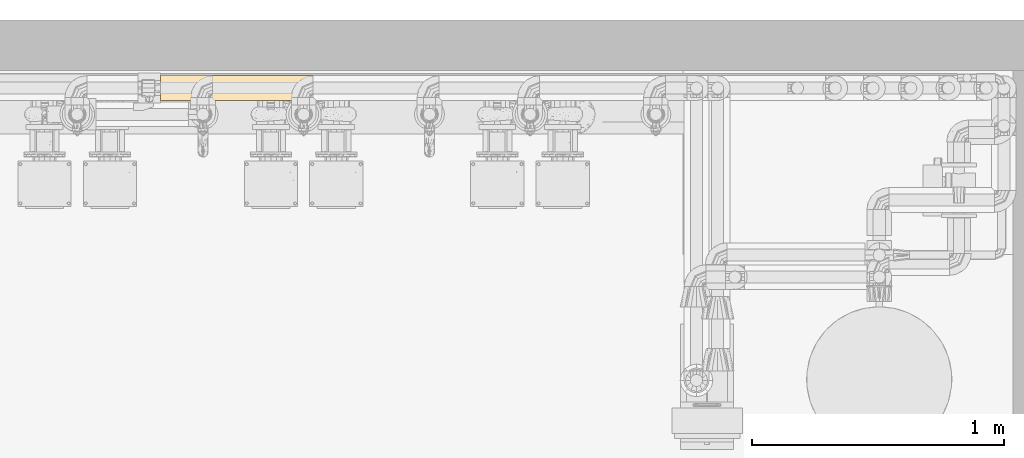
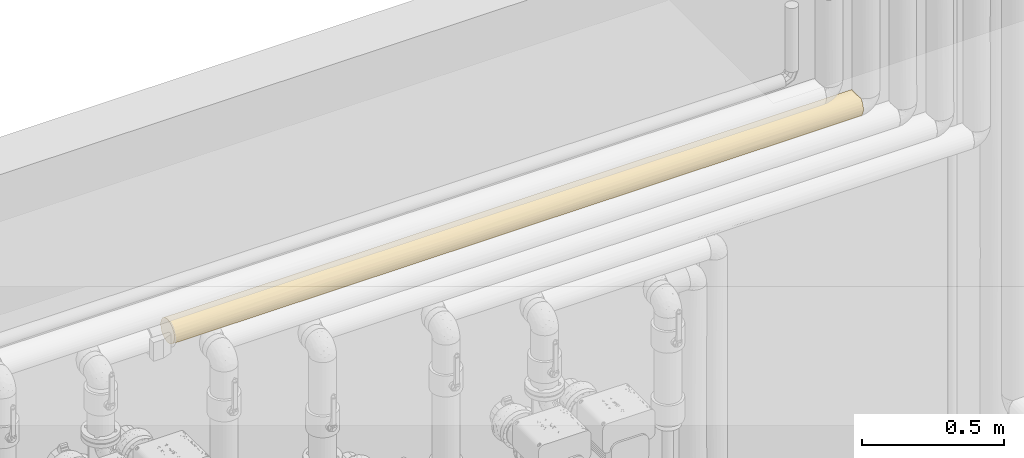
# One storey, part 6 of 94: 1 covering.
"""IFC2X3 building model written with IfcOpenShell, lengths in millimetres."""

from ifc_helpers import new_model, entity, si_unit, converted_unit, derived_unit, direction, frame, origin, place, context, subcontext, project, spatial, faceted_brep, material, element, save


model = new_model("IFC2X3")

# Units and contexts
model_context = context("Model", 3, precision=0.01, world=origin(), true_north=direction((6.123031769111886e-17, 1.0)))
body_context = subcontext(model_context, "Body", "Model", "MODEL_VIEW")
ifc_project = project(units=[si_unit("LENGTHUNIT", "METRE", prefix="MILLI"), si_unit("AREAUNIT", "SQUARE_METRE"), si_unit("VOLUMEUNIT", "CUBIC_METRE"), converted_unit("PLANEANGLEUNIT", "DEGREE", entity("IfcRatioMeasure", 0.017453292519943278), si_unit("PLANEANGLEUNIT", "RADIAN"), dimensions=[0, 0, 0, 0, 0, 0, 0]), si_unit("MASSUNIT", "GRAM", prefix="KILO"), derived_unit("MASSDENSITYUNIT", [(si_unit("MASSUNIT", "GRAM", prefix="KILO"), 1), (si_unit("LENGTHUNIT", "METRE"), -3)]), derived_unit("IONCONCENTRATIONUNIT", [(si_unit("MASSUNIT", "GRAM", prefix="KILO"), 1), (si_unit("LENGTHUNIT", "METRE"), -3)]), derived_unit("MOMENTOFINERTIAUNIT", [(si_unit("LENGTHUNIT", "METRE"), 4)]), si_unit("TIMEUNIT", "SECOND"), si_unit("FREQUENCYUNIT", "HERTZ"), si_unit("THERMODYNAMICTEMPERATUREUNIT", "DEGREE_CELSIUS"), derived_unit("THERMALTRANSMITTANCEUNIT", [(si_unit("MASSUNIT", "GRAM", prefix="KILO"), 1), (si_unit("THERMODYNAMICTEMPERATUREUNIT", "KELVIN"), -1), (si_unit("TIMEUNIT", "SECOND"), -3)]), derived_unit("THERMALCONDUCTANCEUNIT", [(si_unit("MASSUNIT", "GRAM", prefix="KILO"), 1), (si_unit("THERMODYNAMICTEMPERATUREUNIT", "KELVIN"), -1), (si_unit("TIMEUNIT", "SECOND"), -3), (si_unit("LENGTHUNIT", "METRE"), 1)]), derived_unit("VOLUMETRICFLOWRATEUNIT", [(si_unit("LENGTHUNIT", "METRE"), 3), (si_unit("TIMEUNIT", "SECOND"), -1)]), derived_unit("MASSFLOWRATEUNIT", [(si_unit("MASSUNIT", "GRAM", prefix="KILO"), 1), (si_unit("TIMEUNIT", "SECOND"), -1)]), derived_unit("ROTATIONALFREQUENCYUNIT", [(si_unit("TIMEUNIT", "SECOND"), -1)]), si_unit("ELECTRICCURRENTUNIT", "AMPERE"), si_unit("ELECTRICVOLTAGEUNIT", "VOLT"), si_unit("POWERUNIT", "WATT"), si_unit("FORCEUNIT", "NEWTON", prefix="KILO"), si_unit("ILLUMINANCEUNIT", "LUX"), si_unit("LUMINOUSFLUXUNIT", "LUMEN"), si_unit("LUMINOUSINTENSITYUNIT", "CANDELA"), derived_unit("USERDEFINED", [(si_unit("MASSUNIT", "GRAM", prefix="KILO"), -1), (si_unit("LENGTHUNIT", "METRE"), -2), (si_unit("TIMEUNIT", "SECOND"), 3), (si_unit("LUMINOUSFLUXUNIT", "LUMEN"), 1)]), derived_unit("USERDEFINED", [(si_unit("MASSUNIT", "GRAM", prefix="KILO"), 1), (si_unit("TIMEUNIT", "SECOND"), -3), (si_unit("LENGTHUNIT", "METRE"), 3), (si_unit("ELECTRICCURRENTUNIT", "AMPERE"), -2)]), derived_unit("SOUNDPOWERUNIT", [(si_unit("MASSUNIT", "GRAM", prefix="KILO"), 1), (si_unit("TIMEUNIT", "SECOND"), -3), (si_unit("LENGTHUNIT", "METRE"), 2)]), derived_unit("SOUNDPRESSUREUNIT", [(si_unit("MASSUNIT", "GRAM", prefix="KILO"), 1), (si_unit("LENGTHUNIT", "METRE"), -1), (si_unit("TIMEUNIT", "SECOND"), -2)]), derived_unit("LINEARVELOCITYUNIT", [(si_unit("LENGTHUNIT", "METRE"), 1), (si_unit("TIMEUNIT", "SECOND"), -1)]), si_unit("PRESSUREUNIT", "PASCAL"), derived_unit("USERDEFINED", [(si_unit("MASSUNIT", "GRAM", prefix="KILO"), 1), (si_unit("LENGTHUNIT", "METRE"), -2), (si_unit("TIMEUNIT", "SECOND"), -2)]), derived_unit("LINEARFORCEUNIT", [(si_unit("MASSUNIT", "GRAM", prefix="KILO"), 1), (si_unit("TIMEUNIT", "SECOND"), -2)]), derived_unit("PLANARFORCEUNIT", [(si_unit("MASSUNIT", "GRAM", prefix="KILO"), 1), (si_unit("LENGTHUNIT", "METRE"), -1), (si_unit("TIMEUNIT", "SECOND"), -2)]), derived_unit("SPECIFICHEATCAPACITYUNIT", [(si_unit("THERMODYNAMICTEMPERATUREUNIT", "KELVIN"), -1), (si_unit("LENGTHUNIT", "METRE"), 2), (si_unit("TIMEUNIT", "SECOND"), -2)]), derived_unit("HEATINGVALUEUNIT", [(si_unit("LENGTHUNIT", "METRE"), 2), (si_unit("TIMEUNIT", "SECOND"), -2)]), derived_unit("VAPORPERMEABILITYUNIT", [(si_unit("LENGTHUNIT", "METRE"), -1), (si_unit("TIMEUNIT", "SECOND"), 1)]), derived_unit("DYNAMICVISCOSITYUNIT", [(si_unit("MASSUNIT", "GRAM", prefix="KILO"), 1), (si_unit("TIMEUNIT", "SECOND"), -1), (si_unit("LENGTHUNIT", "METRE"), -1)]), derived_unit("THERMALEXPANSIONCOEFFICIENTUNIT", [(si_unit("THERMODYNAMICTEMPERATUREUNIT", "KELVIN"), -1)]), derived_unit("MODULUSOFELASTICITYUNIT", [(si_unit("MASSUNIT", "GRAM", prefix="KILO"), 1), (si_unit("LENGTHUNIT", "METRE"), -1), (si_unit("TIMEUNIT", "SECOND"), -2)]), derived_unit("ISOTHERMALMOISTURECAPACITYUNIT", [(si_unit("LENGTHUNIT", "METRE"), 3), (si_unit("MASSUNIT", "GRAM", prefix="KILO"), -1)]), derived_unit("MOISTUREDIFFUSIVITYUNIT", [(si_unit("TIMEUNIT", "SECOND"), -1), (si_unit("LENGTHUNIT", "METRE"), 2)])], contexts=[model_context])

# Site, building, storey
site_placement = place(None, origin())
site = spatial("IfcSite", under=ifc_project, at=site_placement, Name="Default", CompositionType="ELEMENT")
building_placement = place(site_placement, origin())
building = spatial("IfcBuilding", under=site, at=building_placement, CompositionType="ELEMENT")
storey_placement = place(building_placement, origin())
storey = spatial("IfcBuildingStorey", under=building, at=storey_placement, Name="Niveau 0", CompositionType="ELEMENT", Elevation=0.0)

# Covering
ifc_material = material(Name="Isolation - Laine minérale")
covering_placement = place(storey_placement, frame((-9140.887025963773, 9976.120352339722, 2800.7252722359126)))
element("IfcCovering", 1, at=covering_placement, inside=storey, material=ifc_material, Name="Isolation des canalisations:Laine minérale", ObjectType="Isolation des canalisations:Laine minérale", PredefinedType="INSULATION", context=body_context, shape_type="Brep", body=[
    faceted_brep([(0.0, 3.2693363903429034, -63.44105192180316), (0.0, 1.5952722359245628, -50.72527223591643), (0.0, 3.2693363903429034, -38.00949255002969), (0.0, 8.177444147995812, -26.160272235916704), (0.0, 15.985116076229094, -15.985116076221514), (0.0, 26.16027223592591, -8.17744414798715), (0.0, 38.0094925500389, -3.269336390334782), (0.0, 50.72527223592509, -1.5952722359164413), (0.0, 63.44105192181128, -3.269336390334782), (0.0, 75.29027223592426, -8.17744414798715), (0.0, 85.46542839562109, -15.985116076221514), (0.0, 93.27310032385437, -26.160272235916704), (0.0, 98.18120808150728, -38.00949255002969), (0.0, 99.85527223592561, -50.72527223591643), (0.0, 98.18120808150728, -63.44105192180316), (0.0, 93.27310032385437, -75.29027223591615), (0.0, 85.46542839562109, -85.46542839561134), (0.0, 75.29027223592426, -93.2731003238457), (0.0, 63.44105192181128, -98.18120808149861), (0.0, 50.72527223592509, -99.85527223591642), (0.0, 38.0094925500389, -98.18120808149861), (0.0, 26.16027223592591, -93.2731003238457), (0.0, 15.985116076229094, -85.46542839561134), (0.0, 8.177444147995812, -75.29027223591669), (2793.7147128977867, 2.7935963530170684, -39.94049838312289), (2793.7147128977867, 1.5952722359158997, -50.725272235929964), (2793.7147128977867, 3.26933639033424, -63.441051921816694), (2793.7147128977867, 8.17744414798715, -75.29027223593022), (2793.7147128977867, 15.98511607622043, -85.46542839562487), (2793.7147128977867, 26.160272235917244, -93.27310032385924), (2793.7147128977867, 38.00949255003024, -98.18120808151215), (2793.7147128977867, 50.72527223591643, -99.85527223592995), (2793.7147128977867, 63.44105192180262, -98.18120808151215), (2793.7147128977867, 75.29027223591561, -93.27310032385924), (2793.7147128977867, 85.46542839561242, -85.46542839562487), (2793.7147128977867, 93.2731003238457, -75.29027223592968), (2793.7147128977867, 98.18120808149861, -63.441051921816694), (2793.7147128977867, 99.85527223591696, -50.725272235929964), (2793.7147128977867, 98.65694811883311, -39.94049838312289), (2793.7147128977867, 95.12737949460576, -29.696487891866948), (2793.7147128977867, 89.4379998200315, -20.474956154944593), (2793.7147128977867, 81.86619226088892, -12.72527223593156), (2793.7147128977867, 19.58435221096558, -12.725272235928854), (2793.7147128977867, 12.012544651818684, -20.47495615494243), (2793.7147128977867, 6.3231649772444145, -29.696487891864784), (2503.374787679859, 59.134206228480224, -99.13030016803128), (2375.8307265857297, 50.72527223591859, -99.85527223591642), (2304.228244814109, 50.72527223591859, -99.85527223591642), (425.8679876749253, 98.75077891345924, -61.084210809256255), (587.971454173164, 96.11547354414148, -69.52650956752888), (263.76452444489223, 96.11547360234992, -69.52650942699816), (1987.4939845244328, 80.35863350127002, -89.91227008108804), (1868.607524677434, 89.70272176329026, -80.63372134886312), (2164.414401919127, 91.25887828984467, -78.48826343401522), (1080.511420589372, 63.71943527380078, -98.10573895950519), (1447.62641240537, 60.250149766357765, -98.92313119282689), (1325.2545782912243, 50.725272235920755, -99.85527223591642), (384.6493274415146, 89.70272175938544, -80.6337213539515), (2460.221278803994, 89.7027218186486, -80.6337212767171), (2567.7862630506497, 96.11547366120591, -69.52650928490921), (417.8840408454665, 99.85527223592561, -50.72527223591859), (330.91221914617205, 80.6337211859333, -89.70272188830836), (2159.021214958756, 69.52650917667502, -96.11547370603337), (2212.2996664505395, 60.143988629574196, -98.94398936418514), (1858.2790436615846, 62.91400256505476, -98.31930288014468), (2504.364474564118, 69.52650922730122, -96.11547368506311), (928.1462670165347, 80.63372113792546, -89.70272192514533), (629.5292427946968, 78.26170363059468, -91.41313094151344), (800.4368289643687, 90.09629995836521, -80.11368961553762), (2392.3784325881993, 80.63372119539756, -89.7027218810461), (822.4784250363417, 68.78717981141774, -96.4147064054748), (649.6847191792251, 59.771171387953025, -99.01531891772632), (521.5076253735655, 69.5265092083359, -96.11547369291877), (333.06105018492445, 61.14621434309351, -98.73736306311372), (231.77085494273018, 69.96938003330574, -95.92948902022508), (2304.2280550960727, 99.85527223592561, -50.72527223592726), (2498.968470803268, 99.0965167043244, -59.32641219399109), (2215.6700630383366, 98.99700847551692, -59.86837785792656), (735.393812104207, 98.8414218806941, -60.654675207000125), (1087.4682835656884, 73.27611677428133, -94.37405584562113), (1080.511425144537, 99.13125924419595, -59.12868355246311), (1569.9980789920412, 98.89899957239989, -60.371457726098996), (1292.1838730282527, 96.47873404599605, -68.62436809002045), (1645.6901443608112, 94.98007130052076, -72.06232122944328), (1947.1855768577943, 98.31620290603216, -62.92610081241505), (1940.6134592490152, 94.83948991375, -72.35147621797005), (1325.2547394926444, 99.85527223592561, -50.72527223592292), (835.7680816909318, 99.85527223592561, -50.725272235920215), (1254.8506129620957, 88.57480314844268, -82.04890404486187), (2273.537948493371, 96.1154736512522, -69.5265093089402), (1814.7414115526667, 50.72527223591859, -99.85527223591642), (1569.9981775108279, 50.725272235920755, -99.85527223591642), (1585.2669650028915, 82.70482062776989, -88.02226118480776), (1262.6155734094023, 80.34701073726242, -89.92105655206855), (941.2634774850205, 95.9166886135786, -69.99942035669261), (1565.72906003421, 89.77374362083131, -80.54093561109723), (1876.8349252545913, 72.37411561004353, -94.8283841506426), (1957.9467402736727, 50.72527223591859, -99.85527223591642), (1468.4600552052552, 50.725272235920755, -99.85527223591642), (1223.71687830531, 50.72527223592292, -99.85527223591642), (978.9733701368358, 50.72527223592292, -99.85527223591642), (835.7681102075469, 50.72527223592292, -99.85527223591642), (1491.5797010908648, 70.11560118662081, -95.86696076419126), (1814.741397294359, 99.85527223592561, -50.72527223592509), (489.48668506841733, 50.72527223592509, -99.85527223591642), (417.8842376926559, 50.72527223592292, -99.85527223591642), (2460.221277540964, 20.816823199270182, -89.70272182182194), (2392.3784313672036, 11.747822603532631, -80.63372121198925), (928.1462641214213, 11.747822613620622, -80.63372122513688), (1076.5368883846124, 7.029767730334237, -73.18545447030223), (818.9377512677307, 4.899311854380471, -68.43793028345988), (2162.8948628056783, 23.22817943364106, -91.43972651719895), (1987.0126110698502, 11.544405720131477, -80.36673979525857), (1865.568447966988, 20.816823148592, -89.70272178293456), (1991.3489533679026, 34.660647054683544, -97.15462413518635), (2211.3784991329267, 41.831991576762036, -99.04365858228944), (2272.207087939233, 31.924035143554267, -96.11547364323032), (2504.3644737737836, 5.335070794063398, -69.52650924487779), (289.350240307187, 31.924035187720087, -96.11547366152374), (2304.227025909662, 1.5952722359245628, -50.7252722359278), (2503.37478707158, 2.3202443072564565, -59.1342062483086), (636.8465422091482, 2.3910092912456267, -59.531856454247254), (521.507624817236, 5.33507079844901, -69.52650925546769), (317.62481311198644, 2.758153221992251, -61.35129658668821), (235.2140135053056, 5.649322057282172, -70.26793365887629), (290.3399269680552, 42.316338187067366, -99.13030015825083), (634.6935019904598, 31.924035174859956, -96.11547365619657), (581.4150508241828, 41.3065557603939, -98.94398934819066), (935.4356769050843, 38.53654173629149, -98.31930283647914), (630.8198500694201, 10.01081788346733, -78.22236493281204), (806.7021034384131, 21.08380459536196, -89.90613869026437), (333.4934361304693, 11.747822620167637, -80.6337212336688), (401.33628268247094, 20.816823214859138, -89.70272183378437), (2212.2996646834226, 2.506555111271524, -60.143988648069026), (1080.5114215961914, 3.3448055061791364, -63.71943525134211), (1447.6264127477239, 2.527413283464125, -60.25014978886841), (1325.2553733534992, 1.5952722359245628, -50.72527223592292), (2512.630634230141, 41.619394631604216, -99.00404493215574), (2563.344294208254, 32.246177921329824, -96.24757416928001), (1713.2032956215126, 37.731109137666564, -98.10573894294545), (1346.0883042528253, 41.200394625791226, -98.92313117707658), (2159.0212133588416, 5.335070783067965, -69.52650921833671), (1858.2790403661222, 3.1312416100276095, -62.91400263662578), (1767.632069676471, 28.68479355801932, -94.63397524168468), (1232.420015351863, 18.98387887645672, -88.22515020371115), (1814.7411996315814, 1.5952722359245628, -50.72527223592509), (1569.9982864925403, 1.5952722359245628, -50.725272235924), (1578.229413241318, 13.342815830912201, -82.6048715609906), (1260.144748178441, 11.261507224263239, -79.98904080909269), (916.9203904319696, 29.07460026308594, -94.82748650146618), (1302.1350170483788, 31.33494321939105, -95.8669607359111), (1534.2129281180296, 23.624065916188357, -91.70430975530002), (1876.7943258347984, 6.623057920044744, -72.37594410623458), (835.7695470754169, 1.5952722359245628, -50.725272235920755), (1491.5796982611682, 5.583583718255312, -70.11560121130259), (417.88384318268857, 1.5952722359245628, -50.72527223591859), (2537.7767629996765, 22.818639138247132, -10.290426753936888), (2320.245469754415, 30.080678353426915, -6.143239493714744), (2258.2597417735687, 21.753973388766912, -11.04630119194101), (384.6493284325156, 11.747822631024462, -20.816823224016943), (227.00849659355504, 31.924035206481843, -5.335070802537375), (2154.1290353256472, 41.87732778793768, -2.3985634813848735), (1803.61216979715, 50.72527223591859, -1.5952722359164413), (1914.7408082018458, 36.14173925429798, -3.809630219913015), (1111.7368517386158, 2.4932134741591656, -41.37511675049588), (1569.9980757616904, 2.493213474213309, -41.37511675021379), (1724.4973872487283, 8.28574556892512, -25.973636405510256), (1325.2547480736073, 5.154214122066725, -32.366743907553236), (2505.7692549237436, 8.912806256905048, -24.92847807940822), (2173.652634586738, 8.912856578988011, -24.92839651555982), (2422.4245697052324, 4.275118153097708, -34.72089515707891), (2422.4259206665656, 15.58416496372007, -16.39074908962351), (229.53344870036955, 2.1233223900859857, -43.54144517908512), (503.50768735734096, 2.5381309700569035, -41.14632048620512), (1106.209627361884, 28.280609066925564, -7.021794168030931), (1069.3814225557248, 37.75502401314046, -3.3382533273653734), (827.2957691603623, 31.761800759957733, -5.402610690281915), (2788.9545217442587, 26.531823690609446, -7.9650810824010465), (2785.450812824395, 34.19020495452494, -4.4613721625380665), (1911.5106411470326, 22.480990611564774, -10.525552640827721), (2096.8687773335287, 15.539411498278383, -16.436613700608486), (412.319813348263, 50.72527223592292, -1.5952722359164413), (374.5476982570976, 40.53954009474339, -2.6627321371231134), (696.23991197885, 40.731343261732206, -2.6224835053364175), (330.9122191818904, 20.816823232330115, -11.747822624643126), (1558.8680770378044, 40.7683135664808, -2.61481730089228), (1406.8738641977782, 28.03375882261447, -7.149451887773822), (1325.2539670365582, 13.803241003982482, -18.31353809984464), (1609.1200987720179, 21.451250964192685, -11.26911202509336), (1340.3983839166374, 20.505872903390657, -11.988406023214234), (284.08107789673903, 4.552023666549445, -33.93872951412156), (957.1811069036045, 5.639274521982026, -31.20580220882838), (2782.584712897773, 50.72527223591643, -1.5952722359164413), (2293.0984413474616, 50.72527223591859, -1.5952722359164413), (2446.1171887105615, 40.35749234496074, -2.701673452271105), (2783.3065404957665, 42.33445912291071, -2.3170998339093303), (1993.0367072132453, 3.464931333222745, -37.30077679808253), (1090.299261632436, 9.996571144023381, -23.249286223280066), (800.6636506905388, 11.356740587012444, -21.3335112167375), (587.9714521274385, 5.335070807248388, -31.92403519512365), (797.0418208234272, 2.763764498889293, -40.0739495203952), (630.1902020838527, 23.174697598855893, -10.046988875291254), (522.086899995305, 31.924035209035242, -5.335070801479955), (1770.6231052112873, 14.880955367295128, -17.125542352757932), (929.4681850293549, 20.816823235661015, -11.747822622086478), (1698.2093449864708, 29.71078633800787, -6.316396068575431), (1314.1221586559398, 50.725272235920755, -1.5952722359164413), (824.6358871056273, 50.72527223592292, -1.5952722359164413), (2501.616449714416, 92.53773807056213, -24.928477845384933), (2422.425920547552, 85.86637952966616, -16.39074911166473), (2788.9545217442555, 74.91872078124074, -7.9650810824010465), (2320.245469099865, 71.36986615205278, -6.143239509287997), (2785.450812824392, 67.2603395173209, -4.461372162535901), (957.1811082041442, 95.81126995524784, -31.20580222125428), (1111.7368557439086, 98.95733099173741, -41.37511671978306), (797.0418260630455, 98.68677998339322, -40.073949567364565), (2783.3065404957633, 59.116085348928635, -2.3170998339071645), (2446.117188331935, 61.09305214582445, -2.7016734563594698), (1609.1200916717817, 79.99929352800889, -11.269112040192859), (1911.5106398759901, 78.96955391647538, -10.525552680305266), (1770.623104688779, 86.56958917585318, -17.125542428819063), (2422.4245696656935, 97.17542632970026, -34.720895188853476), (2173.652634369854, 92.537687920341, -24.928396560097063), (284.08107996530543, 96.89852087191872, -33.93872969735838), (503.5076930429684, 98.91241351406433, -41.14632054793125), (229.53345225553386, 99.32722206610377, -43.54144507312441), (374.54769818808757, 60.911004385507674, -2.6627321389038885), (522.0868998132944, 69.52650927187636, -5.335070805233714), (227.0084965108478, 69.52650926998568, -5.33507080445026), (630.1902017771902, 78.2758468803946, -10.046988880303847), (800.6636501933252, 90.09380388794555, -21.3335112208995), (384.6493285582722, 89.70272184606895, -20.81682323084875), (1624.599478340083, 98.6154704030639, -39.75778302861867), (1372.238074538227, 99.0755424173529, -42.00699985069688), (1325.2547503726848, 96.29633031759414, -32.36674382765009), (587.971452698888, 96.11547366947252, -31.924035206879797), (330.9122190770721, 80.63372124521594, -11.747822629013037), (1993.0367082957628, 97.98561315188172, -37.30077684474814), (1914.7408070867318, 65.30880526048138, -3.8096302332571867), (2258.259741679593, 79.69657111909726, -11.046301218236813), (2537.776762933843, 78.63190535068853, -10.29042676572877), (1724.4973900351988, 93.16479897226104, -25.97363652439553), (2154.1290345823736, 59.5732167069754, -2.398563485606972), (1558.8680766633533, 60.68223091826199, -2.6148173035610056), (2096.8687770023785, 85.91113300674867, -16.43661373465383), (1069.3814221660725, 63.69552028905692, -3.3382532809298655), (696.2399117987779, 60.7192012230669, -2.622483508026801), (1325.2539735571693, 87.64730334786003, -18.313537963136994), (1340.3983713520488, 80.94467128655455, -11.988405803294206), (1406.8738630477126, 73.41678529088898, -7.149451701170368), (827.2957711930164, 69.68874377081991, -5.402610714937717), (1090.2992654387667, 91.45397327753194, -23.24928614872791), (929.4681844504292, 80.63372124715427, -11.747822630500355), (1698.2093463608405, 71.73975824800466, -6.316396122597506), (1106.2096298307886, 73.16993512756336, -7.021794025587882)], [[[0, 1, 2, 3, 4, 5, 6, 7, 8, 9, 10, 11, 12, 13, 14, 15, 16, 17, 18, 19, 20, 21, 22, 23]], [[24, 25, 26, 27, 28, 29, 30, 31, 32, 33, 34, 35, 36, 37, 38, 39, 40, 41, 42, 43, 44]], [[45, 31, 46, 47]], [[48, 49, 50]], [[51, 52, 53]], [[54, 55, 56]], [[57, 15, 50]], [[35, 34, 58]], [[35, 59, 36]], [[13, 60, 48]], [[16, 57, 61]], [[62, 63, 64]], [[65, 45, 63]], [[66, 67, 68]], [[16, 61, 17]], [[33, 32, 65]], [[33, 65, 69]], [[70, 71, 72]], [[72, 73, 74]], [[50, 15, 14]], [[15, 57, 16]], [[75, 76, 77]], [[69, 58, 34]], [[49, 48, 78]], [[66, 79, 70]], [[80, 81, 82]], [[73, 72, 71]], [[33, 69, 34]], [[83, 84, 85]], [[36, 59, 76]], [[51, 69, 62]], [[65, 63, 62]], [[52, 85, 53]], [[86, 80, 87]], [[60, 78, 48]], [[68, 88, 66]], [[68, 57, 49]], [[61, 67, 72]], [[69, 51, 53]], [[18, 73, 19]], [[36, 76, 37]], [[59, 58, 89]], [[64, 90, 91]], [[88, 92, 93]], [[57, 68, 67]], [[74, 61, 72]], [[78, 94, 49]], [[68, 94, 88]], [[95, 82, 83]], [[52, 51, 92]], [[45, 65, 32]], [[69, 65, 62]], [[96, 62, 64]], [[95, 83, 52]], [[96, 92, 51]], [[88, 93, 66]], [[31, 45, 32]], [[45, 47, 63]], [[63, 47, 97, 90]], [[64, 63, 90]], [[55, 91, 98, 56]], [[62, 96, 51]], [[71, 70, 54]], [[54, 56, 99, 100, 101]], [[93, 79, 66]], [[55, 54, 102]], [[91, 55, 64]], [[64, 55, 102]], [[14, 13, 48]], [[57, 50, 49]], [[14, 48, 50]], [[78, 60, 87]], [[87, 80, 78]], [[78, 80, 94]], [[88, 94, 82]], [[81, 86, 103]], [[68, 49, 94]], [[81, 80, 86]], [[94, 80, 82]], [[84, 81, 103]], [[83, 82, 81]], [[77, 103, 75]], [[83, 85, 52]], [[84, 83, 81]], [[52, 92, 95]], [[92, 88, 95]], [[82, 95, 88]], [[92, 102, 93]], [[79, 102, 54]], [[102, 79, 93]], [[70, 79, 54]], [[71, 54, 101]], [[70, 72, 67]], [[71, 101, 104, 105]], [[73, 71, 105]], [[19, 73, 105]], [[74, 18, 17]], [[18, 74, 73]], [[61, 74, 17]], [[64, 102, 96]], [[92, 96, 102]], [[84, 89, 85]], [[53, 89, 58]], [[89, 53, 85]], [[53, 58, 69]], [[58, 59, 35]], [[84, 77, 89]], [[89, 76, 59]], [[37, 76, 75]], [[89, 77, 76]], [[103, 77, 84]], [[67, 61, 57]], [[70, 67, 66]], [[106, 28, 107]], [[108, 109, 110]], [[27, 107, 28]], [[111, 112, 113]], [[28, 106, 29]], [[114, 115, 116]], [[27, 26, 117]], [[21, 20, 118]], [[25, 119, 120]], [[110, 121, 122]], [[123, 124, 122]], [[122, 121, 123]], [[125, 19, 105, 104]], [[126, 127, 128]], [[108, 129, 130]], [[131, 22, 132]], [[117, 120, 133]], [[118, 125, 127]], [[134, 135, 136]], [[137, 138, 116]], [[132, 21, 118]], [[139, 140, 98]], [[27, 117, 107]], [[21, 132, 22]], [[141, 133, 142]], [[22, 131, 23]], [[143, 114, 111]], [[116, 115, 137]], [[130, 132, 126]], [[118, 127, 126]], [[131, 129, 122]], [[112, 107, 141]], [[117, 133, 141]], [[106, 111, 116]], [[132, 130, 129]], [[0, 123, 1]], [[30, 137, 31]], [[124, 131, 122]], [[107, 112, 111]], [[138, 106, 116]], [[128, 100, 99]], [[130, 144, 108]], [[142, 145, 146]], [[144, 147, 148]], [[125, 118, 20]], [[132, 118, 126]], [[120, 117, 26]], [[107, 117, 141]], [[149, 126, 128]], [[130, 149, 144]], [[150, 151, 144]], [[113, 112, 147]], [[152, 141, 142]], [[147, 144, 151]], [[152, 147, 112]], [[144, 148, 108]], [[19, 125, 20]], [[125, 104, 127]], [[25, 120, 26]], [[120, 119, 133]], [[127, 104, 101, 100]], [[128, 127, 100]], [[140, 99, 56, 98]], [[126, 149, 130]], [[115, 97, 47, 46]], [[139, 98, 91, 90, 97]], [[151, 143, 113]], [[119, 145, 133]], [[142, 133, 145]], [[135, 146, 136]], [[141, 152, 112]], [[121, 110, 134]], [[134, 136, 153]], [[148, 109, 108]], [[140, 139, 150]], [[99, 140, 128]], [[128, 140, 150]], [[135, 134, 154]], [[146, 135, 142]], [[142, 135, 154]], [[128, 150, 149]], [[144, 149, 150]], [[142, 154, 152]], [[147, 152, 154]], [[143, 150, 139]], [[147, 151, 113]], [[150, 143, 151]], [[114, 143, 139]], [[97, 114, 139]], [[114, 116, 111]], [[97, 115, 114]], [[137, 115, 46]], [[31, 137, 46]], [[137, 30, 138]], [[30, 29, 138]], [[106, 138, 29]], [[147, 154, 148]], [[109, 154, 134]], [[154, 109, 148]], [[110, 109, 134]], [[121, 134, 153]], [[110, 122, 129]], [[153, 155, 121]], [[0, 23, 124]], [[121, 155, 123]], [[1, 123, 155]], [[0, 124, 123]], [[131, 124, 23]], [[129, 131, 132]], [[110, 129, 108]], [[111, 106, 107]], [[111, 113, 143]], [[156, 157, 158]], [[3, 159, 4]], [[6, 5, 160]], [[161, 162, 163]], [[164, 153, 136, 146, 145, 165]], [[166, 167, 165]], [[168, 169, 170]], [[171, 43, 42]], [[43, 171, 168]], [[172, 1, 155]], [[155, 173, 172]], [[174, 175, 176]], [[157, 177, 178]], [[44, 168, 170]], [[163, 179, 157]], [[180, 169, 171]], [[181, 182, 183]], [[170, 24, 44]], [[5, 4, 184]], [[185, 175, 186]], [[187, 188, 189]], [[2, 172, 190]], [[166, 187, 167]], [[164, 167, 191]], [[159, 184, 4]], [[192, 193, 194]], [[119, 25, 24]], [[192, 194, 195]], [[194, 178, 195]], [[190, 159, 3]], [[170, 196, 119]], [[160, 182, 6]], [[156, 42, 177]], [[158, 179, 180]], [[170, 169, 196]], [[119, 24, 170]], [[145, 119, 196]], [[197, 198, 191]], [[198, 159, 199]], [[173, 153, 200]], [[184, 201, 202]], [[166, 196, 169]], [[6, 182, 7]], [[165, 196, 166]], [[203, 169, 180]], [[187, 203, 188]], [[166, 169, 203]], [[201, 198, 204]], [[186, 188, 205]], [[206, 185, 162]], [[159, 198, 201]], [[160, 184, 202]], [[191, 198, 199]], [[204, 198, 197]], [[157, 194, 161]], [[162, 185, 163]], [[183, 207, 181]], [[175, 206, 207]], [[175, 183, 176]], [[164, 200, 153]], [[197, 167, 187]], [[145, 196, 165]], [[167, 164, 165]], [[200, 164, 191]], [[191, 199, 200]], [[173, 200, 199]], [[173, 199, 190]], [[153, 173, 155]], [[159, 190, 199]], [[3, 2, 190]], [[190, 172, 173]], [[1, 172, 2]], [[175, 185, 206]], [[205, 185, 186]], [[43, 168, 44]], [[169, 168, 171]], [[158, 180, 171]], [[180, 179, 203]], [[188, 203, 179]], [[187, 166, 203]], [[205, 179, 163]], [[188, 186, 189]], [[179, 205, 188]], [[185, 205, 163]], [[171, 42, 156]], [[179, 158, 157]], [[157, 156, 177]], [[171, 156, 158]], [[174, 189, 186]], [[204, 187, 189]], [[167, 197, 191]], [[204, 197, 187]], [[161, 194, 193]], [[178, 194, 157]], [[162, 161, 193]], [[157, 161, 163]], [[184, 160, 5]], [[182, 160, 202]], [[182, 202, 183]], [[182, 181, 7]], [[176, 183, 202]], [[175, 207, 183]], [[201, 176, 202]], [[175, 174, 186]], [[176, 204, 174]], [[189, 174, 204]], [[201, 184, 159]], [[176, 201, 204]], [[39, 208, 40]], [[209, 41, 40]], [[210, 211, 212]], [[213, 214, 215]], [[216, 217, 192]], [[218, 219, 220]], [[39, 38, 221]], [[209, 208, 222]], [[223, 224, 225]], [[226, 227, 228]], [[7, 181, 226]], [[221, 222, 208]], [[229, 230, 231]], [[232, 233, 234]], [[215, 224, 235]], [[217, 193, 192]], [[10, 236, 231]], [[221, 237, 222]], [[238, 211, 219]], [[223, 235, 224]], [[75, 237, 221]], [[228, 9, 8]], [[239, 240, 209]], [[217, 212, 211]], [[235, 223, 231]], [[237, 241, 222]], [[242, 193, 217]], [[243, 206, 162]], [[231, 11, 10]], [[239, 209, 244]], [[38, 37, 75]], [[245, 207, 206]], [[244, 209, 222]], [[240, 210, 41]], [[38, 75, 221]], [[237, 75, 103]], [[230, 235, 231]], [[244, 220, 219]], [[10, 9, 236]], [[12, 225, 13]], [[236, 229, 231]], [[103, 232, 237]], [[181, 246, 226]], [[237, 232, 241]], [[247, 241, 234]], [[220, 244, 222]], [[230, 213, 235]], [[248, 249, 218]], [[227, 246, 250]], [[206, 243, 245]], [[228, 236, 9]], [[229, 236, 227]], [[247, 251, 252]], [[251, 234, 213]], [[219, 218, 253]], [[242, 162, 193]], [[245, 254, 250]], [[238, 243, 162]], [[226, 246, 227]], [[251, 213, 230]], [[86, 214, 233]], [[86, 87, 214]], [[213, 234, 214]], [[215, 214, 87]], [[224, 87, 60]], [[235, 213, 215]], [[87, 224, 215]], [[225, 224, 60]], [[12, 11, 223]], [[231, 223, 11]], [[13, 225, 60]], [[223, 225, 12]], [[86, 232, 103]], [[241, 232, 234]], [[253, 243, 238]], [[245, 243, 249]], [[40, 208, 209]], [[39, 221, 208]], [[220, 222, 241]], [[239, 219, 211]], [[241, 247, 220]], [[247, 248, 218]], [[247, 218, 220]], [[253, 218, 249]], [[243, 253, 249]], [[219, 253, 238]], [[219, 239, 244]], [[240, 211, 210]], [[209, 240, 41]], [[211, 240, 239]], [[247, 252, 248]], [[254, 248, 252]], [[252, 251, 230]], [[234, 251, 247]], [[212, 217, 216]], [[242, 211, 238]], [[211, 242, 217]], [[162, 242, 238]], [[8, 7, 226]], [[236, 228, 227]], [[8, 226, 228]], [[246, 181, 207]], [[207, 245, 246]], [[250, 246, 245]], [[254, 245, 249]], [[229, 250, 252]], [[248, 254, 249]], [[252, 250, 254]], [[250, 229, 227]], [[230, 229, 252]], [[234, 233, 214]], [[232, 86, 233]], [[192, 195, 178, 177, 42, 41, 210, 212, 216]]]),
])

save(model, "model.ifc")
